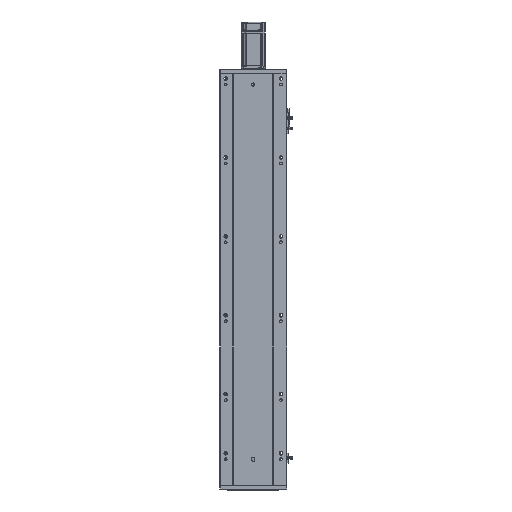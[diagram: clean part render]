
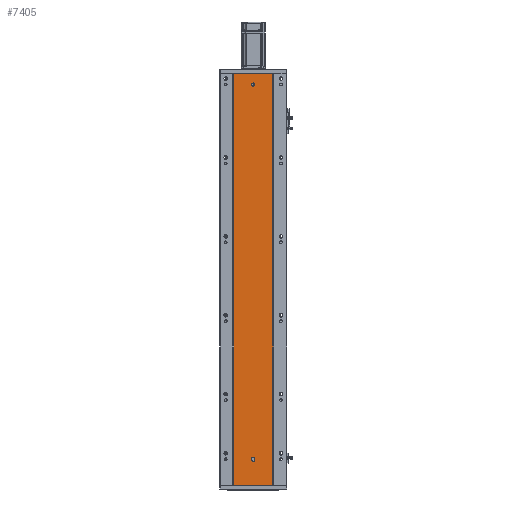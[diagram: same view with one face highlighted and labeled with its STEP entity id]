
A CAD part, front view. The second image highlights one B-rep face of the part: STEP entity #7405.
In plain terms, the highlighted planar face has unit normal (0, -1, 0).
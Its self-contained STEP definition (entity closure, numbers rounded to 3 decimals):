
#903 = DIRECTION ( 'NONE',  ( 0., 0., -1. ) ) ;
#1802 = CIRCLE ( 'NONE', #28130, 4. ) ;
#2853 = CIRCLE ( 'NONE', #62714, 4. ) ;
#4657 = EDGE_LOOP ( 'NONE', ( #12416, #63769 ) ) ;
#4961 = B_SPLINE_CURVE_WITH_KNOTS ( 'NONE', 3,
 ( #62050, #14064, #61581, #50730 ),
 .UNSPECIFIED., .F., .F.,
 ( 4, 4 ),
 ( 0., 1. ),
 .UNSPECIFIED. ) ;
#5798 = DIRECTION ( 'NONE',  ( 0., 0., 1. ) ) ;
#6236 = ORIENTED_EDGE ( 'NONE', *, *, #32267, .F. ) ;
#6693 = CARTESIAN_POINT ( 'NONE',  ( 136.47, 79.476, 60.5 ) ) ;
#7405 = ADVANCED_FACE ( 'NONE', ( #21057, #35882, #45759 ), #62005, .F. ) ;
#7476 = DIRECTION ( 'NONE',  ( 0., -1., 0. ) ) ;
#7998 = CARTESIAN_POINT ( 'NONE',  ( 132.47, 79.476, 64.5 ) ) ;
#8099 = ORIENTED_EDGE ( 'NONE', *, *, #54928, .T. ) ;
#8604 = AXIS2_PLACEMENT_3D ( 'NONE', #35422, #66610, #30091 ) ;
#8991 = VERTEX_POINT ( 'NONE', #47098 ) ;
#10835 = CARTESIAN_POINT ( 'NONE',  ( 0., 79.476, 1044. ) ) ;
#11645 = VECTOR ( 'NONE', #44560, 1000. ) ;
#11740 = VECTOR ( 'NONE', #903, 1000. ) ;
#12416 = ORIENTED_EDGE ( 'NONE', *, *, #52617, .F. ) ;
#13136 = EDGE_CURVE ( 'NONE', #23052, #34906, #62818, .T. ) ;
#13285 = VERTEX_POINT ( 'NONE', #52975 ) ;
#13443 = DIRECTION ( 'NONE',  ( 0., -1., 0. ) ) ;
#14064 = CARTESIAN_POINT ( 'NONE',  ( 86.97, 79.476, 696. ) ) ;
#14186 = DIRECTION ( 'NONE',  ( 0., -1., 0. ) ) ;
#14402 = VERTEX_POINT ( 'NONE', #63583 ) ;
#14863 = EDGE_CURVE ( 'NONE', #8991, #34906, #20003, .T. ) ;
#17069 = DIRECTION ( 'NONE',  ( 1., 0., 0. ) ) ;
#17559 = EDGE_LOOP ( 'NONE', ( #18651, #43535, #6236, #8099 ) ) ;
#17633 = CARTESIAN_POINT ( 'NONE',  ( 185.97, 79.476, 348. ) ) ;
#17832 = CARTESIAN_POINT ( 'NONE',  ( 0., 79.476, 0. ) ) ;
#18334 = LINE ( 'NONE', #10835, #34765 ) ;
#18651 = ORIENTED_EDGE ( 'NONE', *, *, #13136, .T. ) ;
#18676 = EDGE_CURVE ( 'NONE', #35270, #19967, #2853, .T. ) ;
#19967 = VERTEX_POINT ( 'NONE', #54120 ) ;
#20003 = B_SPLINE_CURVE_WITH_KNOTS ( 'NONE', 3,
 ( #33056, #59615, #17633, #22922 ),
 .UNSPECIFIED., .F., .F.,
 ( 4, 4 ),
 ( 0., 1. ),
 .UNSPECIFIED. ) ;
#20882 = EDGE_CURVE ( 'NONE', #14402, #29762, #31412, .T. ) ;
#21057 = FACE_BOUND ( 'NONE', #62388, .T. ) ;
#21238 = CIRCLE ( 'NONE', #46832, 4. ) ;
#22922 = CARTESIAN_POINT ( 'NONE',  ( 185.97, 79.476, 0. ) ) ;
#23052 = VERTEX_POINT ( 'NONE', #53187 ) ;
#27026 = CARTESIAN_POINT ( 'NONE',  ( 136.47, 79.476, 64.5 ) ) ;
#27664 = CARTESIAN_POINT ( 'NONE',  ( 132.47, 79.476, 67.5 ) ) ;
#27780 = EDGE_CURVE ( 'NONE', #19967, #57024, #61242, .T. ) ;
#27978 = ORIENTED_EDGE ( 'NONE', *, *, #27780, .F. ) ;
#28130 = AXIS2_PLACEMENT_3D ( 'NONE', #60305, #7476, #38396 ) ;
#29762 = VERTEX_POINT ( 'NONE', #30779 ) ;
#30091 = DIRECTION ( 'NONE',  ( 0., 0., 1. ) ) ;
#30181 = ORIENTED_EDGE ( 'NONE', *, *, #18676, .F. ) ;
#30779 = CARTESIAN_POINT ( 'NONE',  ( 136.47, 79.476, 1012. ) ) ;
#31412 = CIRCLE ( 'NONE', #41270, 4. ) ;
#31896 = DIRECTION ( 'NONE',  ( 0., -1., 0. ) ) ;
#32063 = AXIS2_PLACEMENT_3D ( 'NONE', #45026, #13443, #50362 ) ;
#32077 = CIRCLE ( 'NONE', #32063, 4. ) ;
#32126 = DIRECTION ( 'NONE',  ( 0., 0., -1. ) ) ;
#32267 = EDGE_CURVE ( 'NONE', #13285, #8991, #18334, .T. ) ;
#32522 = CARTESIAN_POINT ( 'NONE',  ( 140.47, 79.476, 67.5 ) ) ;
#32770 = DIRECTION ( 'NONE',  ( 0., 0., -1. ) ) ;
#33048 = CARTESIAN_POINT ( 'NONE',  ( 185.97, 79.476, 0. ) ) ;
#33056 = CARTESIAN_POINT ( 'NONE',  ( 185.97, 79.476, 1044. ) ) ;
#34765 = VECTOR ( 'NONE', #17069, 1000. ) ;
#34906 = VERTEX_POINT ( 'NONE', #33048 ) ;
#35130 = VECTOR ( 'NONE', #5798, 1000. ) ;
#35270 = VERTEX_POINT ( 'NONE', #50194 ) ;
#35422 = CARTESIAN_POINT ( 'NONE',  ( 0., 79.476, 1044. ) ) ;
#35882 = FACE_BOUND ( 'NONE', #4657, .T. ) ;
#37289 = ORIENTED_EDGE ( 'NONE', *, *, #42787, .F. ) ;
#38396 = DIRECTION ( 'NONE',  ( 0., 0., -1. ) ) ;
#40507 = VERTEX_POINT ( 'NONE', #61575 ) ;
#41270 = AXIS2_PLACEMENT_3D ( 'NONE', #56394, #14186, #51099 ) ;
#42787 = EDGE_CURVE ( 'NONE', #40507, #35270, #49224, .T. ) ;
#43535 = ORIENTED_EDGE ( 'NONE', *, *, #14863, .F. ) ;
#44560 = DIRECTION ( 'NONE',  ( 1., 0., 0. ) ) ;
#45026 = CARTESIAN_POINT ( 'NONE',  ( 136.47, 79.476, 64.5 ) ) ;
#45759 = FACE_OUTER_BOUND ( 'NONE', #17559, .T. ) ;
#46832 = AXIS2_PLACEMENT_3D ( 'NONE', #27026, #49195, #32770 ) ;
#47098 = CARTESIAN_POINT ( 'NONE',  ( 185.97, 79.476, 1044. ) ) ;
#48792 = VERTEX_POINT ( 'NONE', #6693 ) ;
#49195 = DIRECTION ( 'NONE',  ( 0., -1., 0. ) ) ;
#49224 = LINE ( 'NONE', #32522, #35130 ) ;
#50194 = CARTESIAN_POINT ( 'NONE',  ( 140.47, 79.476, 67.5 ) ) ;
#50362 = DIRECTION ( 'NONE',  ( 0., 0., -1. ) ) ;
#50730 = CARTESIAN_POINT ( 'NONE',  ( 86.97, 79.476, 0. ) ) ;
#51099 = DIRECTION ( 'NONE',  ( 0., 0., -1. ) ) ;
#52617 = EDGE_CURVE ( 'NONE', #29762, #14402, #1802, .T. ) ;
#52975 = CARTESIAN_POINT ( 'NONE',  ( 86.97, 79.476, 1044. ) ) ;
#53080 = ORIENTED_EDGE ( 'NONE', *, *, #56174, .F. ) ;
#53187 = CARTESIAN_POINT ( 'NONE',  ( 86.97, 79.476, 0. ) ) ;
#54120 = CARTESIAN_POINT ( 'NONE',  ( 132.47, 79.476, 67.5 ) ) ;
#54928 = EDGE_CURVE ( 'NONE', #13285, #23052, #4961, .T. ) ;
#56174 = EDGE_CURVE ( 'NONE', #57024, #48792, #21238, .T. ) ;
#56394 = CARTESIAN_POINT ( 'NONE',  ( 136.47, 79.476, 1016. ) ) ;
#57024 = VERTEX_POINT ( 'NONE', #7998 ) ;
#58488 = CARTESIAN_POINT ( 'NONE',  ( 136.47, 79.476, 67.5 ) ) ;
#59615 = CARTESIAN_POINT ( 'NONE',  ( 185.97, 79.476, 696. ) ) ;
#60305 = CARTESIAN_POINT ( 'NONE',  ( 136.47, 79.476, 1016. ) ) ;
#61242 = LINE ( 'NONE', #27664, #11740 ) ;
#61575 = CARTESIAN_POINT ( 'NONE',  ( 140.47, 79.476, 64.5 ) ) ;
#61581 = CARTESIAN_POINT ( 'NONE',  ( 86.97, 79.476, 348. ) ) ;
#61726 = EDGE_CURVE ( 'NONE', #48792, #40507, #32077, .T. ) ;
#62005 = PLANE ( 'NONE',  #8604 ) ;
#62050 = CARTESIAN_POINT ( 'NONE',  ( 86.97, 79.476, 1044. ) ) ;
#62388 = EDGE_LOOP ( 'NONE', ( #53080, #27978, #30181, #37289, #68283 ) ) ;
#62714 = AXIS2_PLACEMENT_3D ( 'NONE', #58488, #31896, #32126 ) ;
#62818 = LINE ( 'NONE', #17832, #11645 ) ;
#63583 = CARTESIAN_POINT ( 'NONE',  ( 136.47, 79.476, 1020. ) ) ;
#63769 = ORIENTED_EDGE ( 'NONE', *, *, #20882, .F. ) ;
#66610 = DIRECTION ( 'NONE',  ( 0., 1., 0. ) ) ;
#68283 = ORIENTED_EDGE ( 'NONE', *, *, #61726, .F. ) ;
